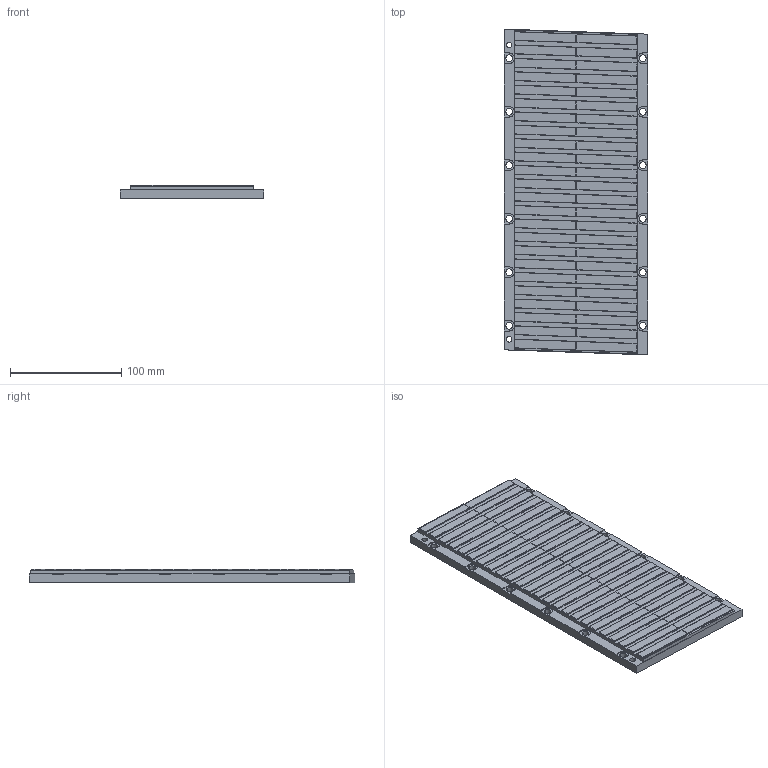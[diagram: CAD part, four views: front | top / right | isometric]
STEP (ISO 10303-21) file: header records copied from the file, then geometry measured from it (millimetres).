
FILE_DESCRIPTION (( 'STEP AP203' ), '1' );
FILE_NAME ('MP129-288 3d.STEP', '2020-10-22T07:42:09', ( '' ), ( '' ), 'SwSTEP 2.0', 'SolidWorks 2018', '' );
FILE_SCHEMA (( 'CONFIG_CONTROL_DESIGN' ));
Length unit declared in the file: millimetre
Products named in the file (1): MP129-288 3d
Bounding box: 129 x 292.35 x 12 mm (x, y, z)
Volume: 410001.2 mm3; surface area: 89810.6 mm2
Topology: 1 solids, 1 shells, 887 faces, 2127 edges, 1074 vertices
Faces by surface type: cylinder 431, plane 264, sphere 192
Entity records: 23864 total; most frequent: DIRECTION 4597, CARTESIAN_POINT 3897, ORIENTED_EDGE 3870, EDGE_CURVE 1935, AXIS2_PLACEMENT_3D 1774, VERTEX_POINT 1074, LINE 1049, VECTOR 1049
